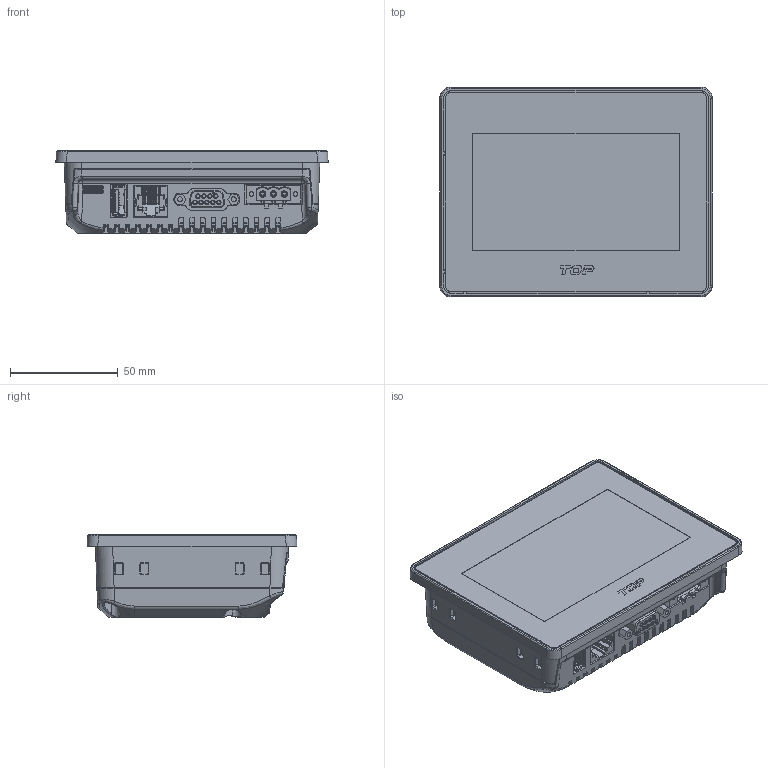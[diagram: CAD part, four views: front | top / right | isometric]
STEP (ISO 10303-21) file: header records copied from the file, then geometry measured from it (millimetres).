
FILE_DESCRIPTION((''),'2;1');
FILE_NAME('TOPRB0400WD','2026-05-27T17:47:08',('이형우'),(''),'CREO PARAMETRIC BY PTC INC, 2024153','CREO PARAMETRIC BY PTC INC, 2024153','');
FILE_SCHEMA(('CONFIG_CONTROL_DESIGN'));
Products named in the file (1): TOPRB0400WD
Bounding box: 126.6 x 97.6 x 38.2 mm (x, y, z)
Volume: 355808 mm3; surface area: 53181.2 mm2
Topology: 1 solids, 9 shells, 3023 faces, 8490 edges, 5540 vertices
Faces by surface type: plane 2082, cylinder 634, cone 105, bspline 92, extrusion 76, torus 23, sphere 11
Entity records: 105476 total; most frequent: CARTESIAN_POINT 28938, ORIENTED_EDGE 16960, DIRECTION 14228, EDGE_CURVE 8480, VECTOR 6332, LINE 6256, VERTEX_POINT 5540, AXIS2_PLACEMENT_3D 3948
